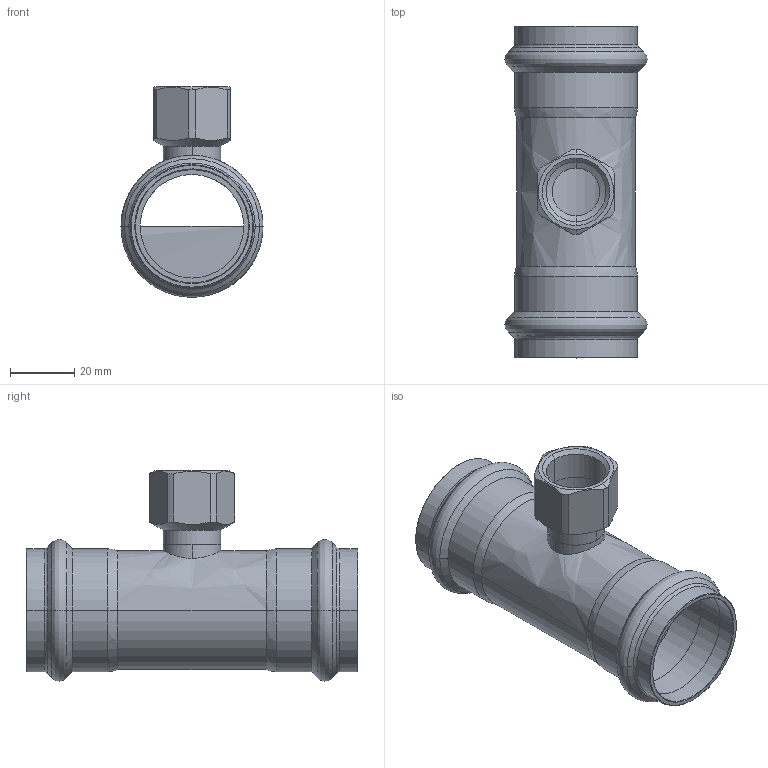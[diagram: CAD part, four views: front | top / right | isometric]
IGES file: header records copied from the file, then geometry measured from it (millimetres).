
Start section: Elysium IGES Interface
Global section: file name: C:\Users\Wallenburg\Desktop\3d modellen sudo\S-Pr VP\SP6130GV\6130GVW351235.igs; native system: CoCreate Modeling 17.00A  17-Jun-2010; preprocessor: CoCreate IGES_3D V2.2; author: Unknown; organization: Unknown; date: 20130121.151555; units: millimetre
Bounding box: 44.3 x 103.51 x 65.63 mm (x, y, z)
Volume: 26008.4 mm3; surface area: 28720.7 mm2
Topology: 1 solids, 1 shells, 117 faces, 266 edges, 150 vertices
Faces by surface type: bspline 117
